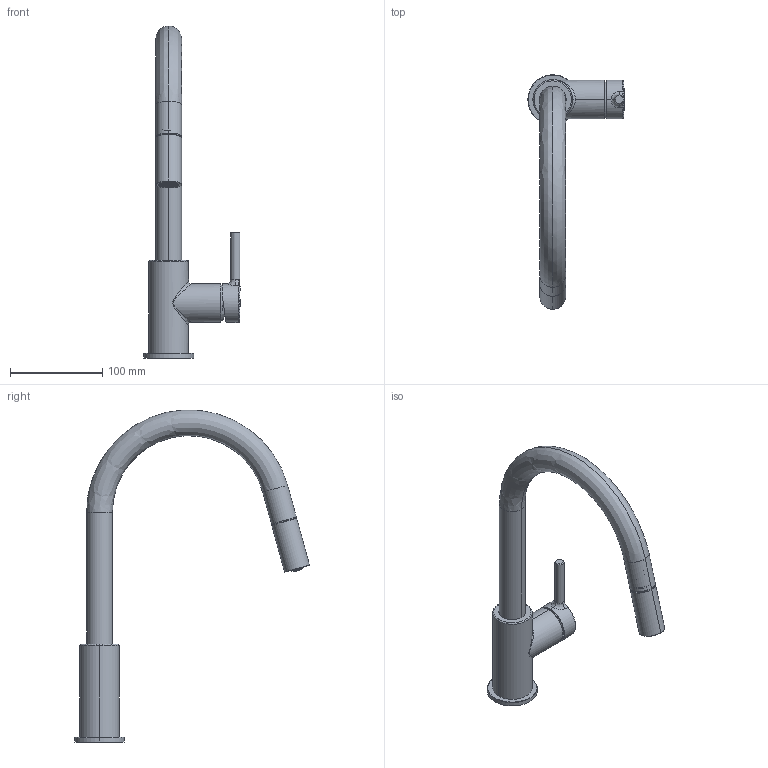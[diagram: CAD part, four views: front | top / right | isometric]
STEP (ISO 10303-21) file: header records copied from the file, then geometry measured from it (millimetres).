
FILE_DESCRIPTION(/* description */ (''),/* implementation_level */ '2;1');
FILE_NAME(/* name */ '3D001_Taps_Lina_J-Pull-Out',/* time_stamp */ '2024-01-30T15:58:23+01:00',/* author */ (''),/* organization */ (''),/* preprocessor_version */ 'ST-DEVELOPER v19.2',/* originating_system */ 'Rhino 8.3',/* authorisation */ '');
FILE_SCHEMA (('CONFIG_CONTROL_DESIGN'));
Products named in the file (16): Document; SZA601890; SMM257540; SZA602030; LOGO_CALDO_FREDDO; SAE030880; SMM255510; SPL351200; SBU050880; STU502060; SMM257560; SGU150190; SGU151220; SGU152250; SMM255330; SMN602580
Bounding box: 104.51 x 254.69 x 360.17 mm (x, y, z)
Volume: 166546.1 mm3; surface area: 164097.8 mm2
Topology: 24 solids, 33 shells, 5375 faces, 14227 edges, 9331 vertices
Faces by surface type: plane 3856, bspline 1004, cylinder 515
Entity records: 252332 total; most frequent: CARTESIAN_POINT 146058, ORIENTED_EDGE 28014, EDGE_CURVE 14026, B_SPLINE_CURVE_WITH_KNOTS 11670, VERTEX_POINT 9206, DIRECTION 9158, AXIS2_PLACEMENT_3D 6747, EDGE_LOOP 5792
